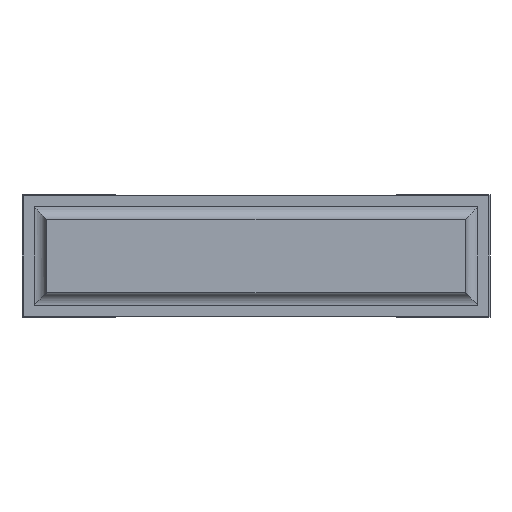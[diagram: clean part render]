
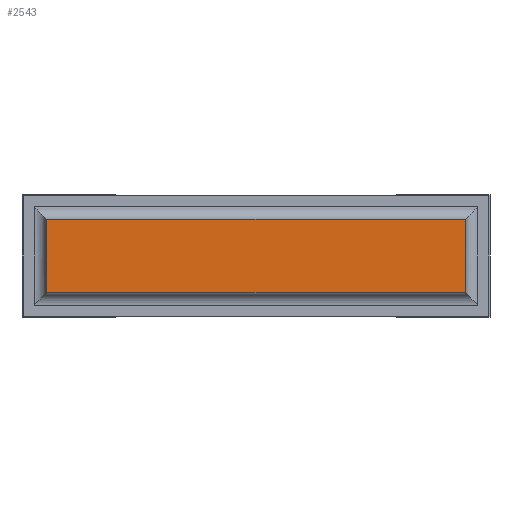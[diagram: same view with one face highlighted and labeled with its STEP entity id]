
A CAD part, front view. The second image highlights one B-rep face of the part: STEP entity #2543.
In plain terms, the highlighted planar face has unit normal (0, -1, 0).
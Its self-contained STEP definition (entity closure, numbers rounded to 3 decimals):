
#105=FACE_OUTER_BOUND('',#263,.T.);
#263=EDGE_LOOP('',(#1695,#1696,#1697,#1698));
#428=LINE('',#3637,#760);
#432=LINE('',#3649,#764);
#433=LINE('',#3651,#765);
#434=LINE('',#3652,#766);
#760=VECTOR('',#2922,10.);
#764=VECTOR('',#2934,10.);
#765=VECTOR('',#2935,10.);
#766=VECTOR('',#2936,10.);
#1091=VERTEX_POINT('',#3633);
#1093=VERTEX_POINT('',#3636);
#1097=VERTEX_POINT('',#3648);
#1098=VERTEX_POINT('',#3650);
#1324=EDGE_CURVE('',#1093,#1091,#428,.T.);
#1330=EDGE_CURVE('',#1097,#1093,#432,.T.);
#1331=EDGE_CURVE('',#1098,#1091,#433,.T.);
#1332=EDGE_CURVE('',#1097,#1098,#434,.T.);
#1695=ORIENTED_EDGE('',*,*,#1330,.T.);
#1696=ORIENTED_EDGE('',*,*,#1324,.T.);
#1697=ORIENTED_EDGE('',*,*,#1331,.F.);
#1698=ORIENTED_EDGE('',*,*,#1332,.F.);
#2416=PLANE('',#2731);
#2543=ADVANCED_FACE('',(#105),#2416,.T.);
#2731=AXIS2_PLACEMENT_3D('',#3647,#2932,#2933);
#2922=DIRECTION('',(0.,0.,-1.));
#2932=DIRECTION('center_axis',(0.,-1.,0.));
#2933=DIRECTION('ref_axis',(0.,0.,-1.));
#2934=DIRECTION('',(-1.,0.,0.));
#2935=DIRECTION('',(-1.,0.,0.));
#2936=DIRECTION('',(0.,0.,-1.));
#3633=CARTESIAN_POINT('',(0.1,0.,0.1));
#3636=CARTESIAN_POINT('',(0.1,0.,0.4));
#3637=CARTESIAN_POINT('',(0.1,0.,0.4));
#3647=CARTESIAN_POINT('Origin',(1.81,0.,0.25));
#3648=CARTESIAN_POINT('',(1.81,0.,0.4));
#3649=CARTESIAN_POINT('',(1.81,0.,0.4));
#3650=CARTESIAN_POINT('',(1.81,0.,0.1));
#3651=CARTESIAN_POINT('',(1.81,0.,0.1));
#3652=CARTESIAN_POINT('',(1.81,0.,0.4));
